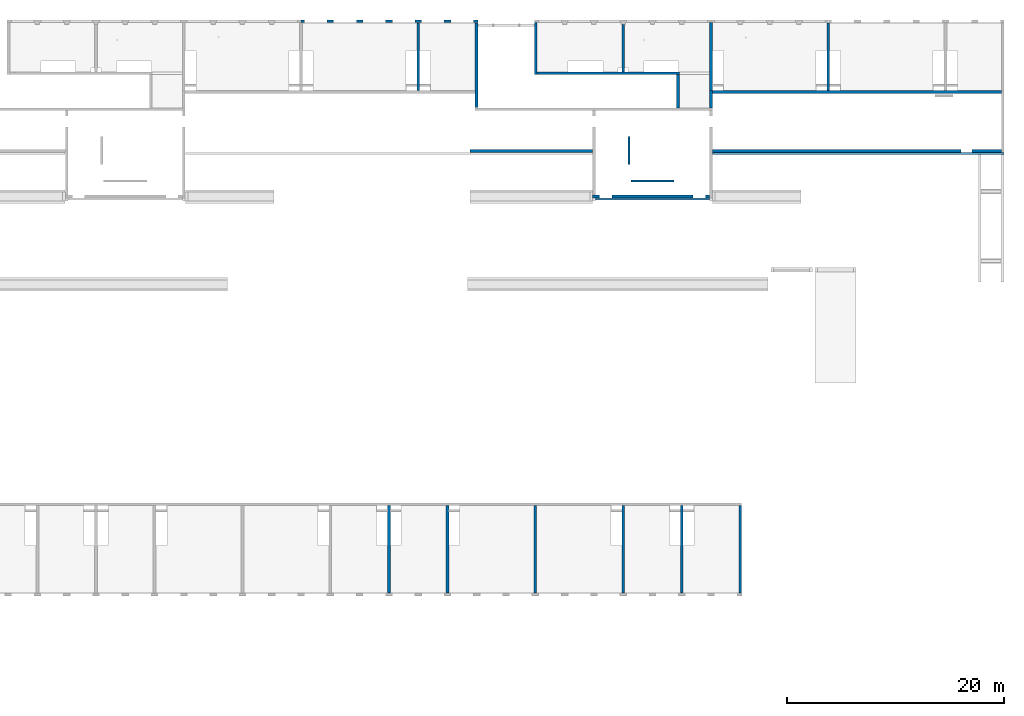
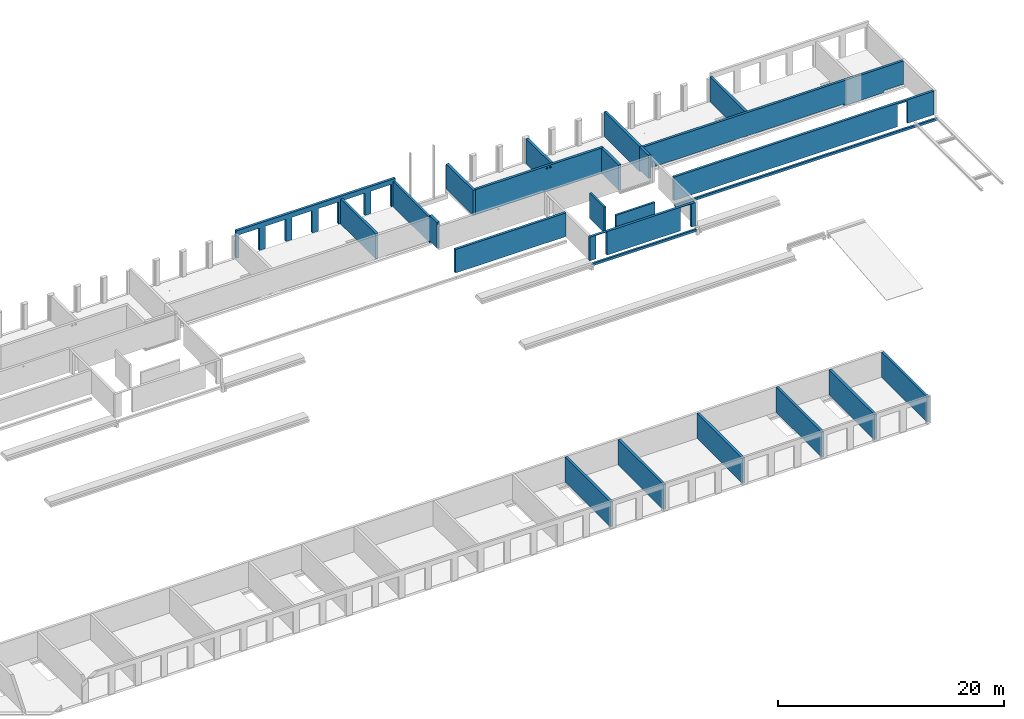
# One storey, part 13 of 18: 24 walls, 16 openings.
"""IFC2X3 building model written with IfcOpenShell, lengths in millimetres."""

from ifc_helpers import new_model, entity, si_unit, converted_unit, derived_unit, direction, frame, frame_2d, origin, origin_2d_with_axis, place, context, subcontext, project, spatial, polyline, rectangle, circle, extrude, clip, bounded_halfspace, material, layer, layer_set, layer_usage, type_object, element, save


model = new_model("IFC2X3")

# Units and contexts
model_context = context("Model", 3, precision=0.01, world=origin(), true_north=direction((6.12303176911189e-17, 1.0)))
body_context = subcontext(model_context, "Body", "Model", "MODEL_VIEW")
ifc_project = project(units=[si_unit("LENGTHUNIT", "METRE", prefix="MILLI"), si_unit("AREAUNIT", "SQUARE_METRE"), si_unit("VOLUMEUNIT", "CUBIC_METRE"), converted_unit("PLANEANGLEUNIT", "DEGREE", entity("IfcRatioMeasure", 0.0174532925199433), si_unit("PLANEANGLEUNIT", "RADIAN"), dimensions=[0, 0, 0, 0, 0, 0, 0]), si_unit("MASSUNIT", "GRAM", prefix="KILO"), derived_unit("MASSDENSITYUNIT", [(si_unit("MASSUNIT", "GRAM", prefix="KILO"), 1), (si_unit("LENGTHUNIT", "METRE"), -3)]), si_unit("TIMEUNIT", "SECOND"), si_unit("FREQUENCYUNIT", "HERTZ"), si_unit("THERMODYNAMICTEMPERATUREUNIT", "DEGREE_CELSIUS"), derived_unit("THERMALTRANSMITTANCEUNIT", [(si_unit("MASSUNIT", "GRAM", prefix="KILO"), 1), (si_unit("THERMODYNAMICTEMPERATUREUNIT", "KELVIN"), -1), (si_unit("TIMEUNIT", "SECOND"), -3)]), derived_unit("VOLUMETRICFLOWRATEUNIT", [(si_unit("LENGTHUNIT", "METRE"), 3), (si_unit("TIMEUNIT", "SECOND"), -1)]), si_unit("ELECTRICCURRENTUNIT", "AMPERE"), si_unit("ELECTRICVOLTAGEUNIT", "VOLT"), si_unit("POWERUNIT", "WATT"), si_unit("FORCEUNIT", "NEWTON", prefix="KILO"), si_unit("ILLUMINANCEUNIT", "LUX"), si_unit("LUMINOUSFLUXUNIT", "LUMEN"), si_unit("LUMINOUSINTENSITYUNIT", "CANDELA"), derived_unit("USERDEFINED", [(si_unit("MASSUNIT", "GRAM", prefix="KILO"), -1), (si_unit("LENGTHUNIT", "METRE"), -2), (si_unit("TIMEUNIT", "SECOND"), 3), (si_unit("LUMINOUSFLUXUNIT", "LUMEN"), 1)]), derived_unit("LINEARVELOCITYUNIT", [(si_unit("LENGTHUNIT", "METRE"), 1), (si_unit("TIMEUNIT", "SECOND"), -1)]), si_unit("PRESSUREUNIT", "PASCAL"), derived_unit("USERDEFINED", [(si_unit("LENGTHUNIT", "METRE"), -2), (si_unit("MASSUNIT", "GRAM", prefix="KILO"), 1), (si_unit("TIMEUNIT", "SECOND"), -2)])], contexts=[model_context])

# Site, building, storey
site_placement = place(None, origin())
site = spatial("IfcSite", under=ifc_project, at=site_placement, Name="Default", CompositionType="ELEMENT")
building_placement = place(site_placement, origin())
building = spatial("IfcBuilding", under=site, at=building_placement, Name="niet gebruiken", CompositionType="ELEMENT")
storey_placement = place(building_placement, frame((0.0, 0.0, 3690.0)))
storey = spatial("IfcBuildingStorey", under=building, at=storey_placement, Name="01 eerste verdieping", CompositionType="ELEMENT", Elevation=3690.00000000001)

# Walls
ifc_material_1 = material(Name="NLRS_f2_beton ihwg")
ifc_layer_1 = layer(ifc_material_1, 250.0)
ifc_layer_set_1 = layer_set([ifc_layer_1], Name="Basic Wall:NLRS_22.21_WA_beton ihwg d=250_gen")
ifc_layer_usage_1 = layer_usage(ifc_layer_set_1, "AXIS2", "NEGATIVE", 125.0)
wall_type_1 = type_object("IfcWallType", Name="Basic Wall:NLRS_22.21_WA_beton ihwg d=250_gen", PredefinedType="STANDARD", material=ifc_layer_set_1)
wall_1_placement = place(storey_placement, frame((70200.0, 46746.0, -90.0), z_axis=(0.0, 0.0, 1.0), x_axis=(0.0, 1.0, 0.0)))
element("IfcWallStandardCase", 1, at=wall_1_placement, inside=storey, type_object=wall_type_1, material=ifc_layer_usage_1, Name="Basic Wall:NLRS_22.21_WA_beton ihwg d=250_gen", ObjectType="Basic Wall:NLRS_22.21_WA_beton ihwg d=250_gen", context=body_context, shape_type="SweptSolid", body=[
    extrude(rectangle(XDim=6239.99999999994, YDim=249.999999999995, at=frame_2d((3119.99999999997, 1.06581410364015e-12), x_axis=(-1.0, 0.0))), origin(), (0.0, 0.0, 1.0), 2720.00000000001),
])
ifc_layer_usage_2 = layer_usage(ifc_layer_set_1, "AXIS2", "NEGATIVE", 125.0)
wall_2_placement = place(storey_placement, frame((86275.0, 41186.0, 120.0), z_axis=(0.0, 0.0, 1.0), x_axis=(-1.0, 0.0, 0.0)))
element("IfcWallStandardCase", 2, at=wall_2_placement, inside=storey, type_object=wall_type_1, material=ifc_layer_usage_2, Name="Basic Wall:NLRS_22.21_WA_beton ihwg d=250_gen", ObjectType="Basic Wall:NLRS_22.21_WA_beton ihwg d=250_gen", context=body_context, shape_type="SweptSolid", body=[
    extrude(rectangle(XDim=11305.0000000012, YDim=249.999999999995, at=frame_2d((5652.5000000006, 2.91322521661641e-12), x_axis=(-1.0, 0.0))), origin(), (0.0, 0.0, 1.0), 2550.0),
])
ifc_layer_usage_3 = layer_usage(ifc_layer_set_1, "AXIS2", "NEGATIVE", 125.0)
wall_3_placement = place(storey_placement, frame((67500.0, 8496.0, -90.0), z_axis=(0.0, 0.0, 1.0), x_axis=(0.0, -1.0, 0.0)))
element("IfcWallStandardCase", 3, at=wall_3_placement, inside=storey, type_object=wall_type_1, material=ifc_layer_usage_3, Name="Basic Wall:NLRS_22.21_WA_beton ihwg d=250_gen", ObjectType="Basic Wall:NLRS_22.21_WA_beton ihwg d=250_gen", context=body_context, shape_type="SweptSolid", body=[
    extrude(rectangle(XDim=8075.99999999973, YDim=249.999999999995, at=frame_2d((4037.99999999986, 0.0), x_axis=(-1.0, 0.0))), origin(), (0.0, 0.0, 1.0), 2720.00000000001),
])
ifc_layer_usage_4 = layer_usage(ifc_layer_set_1, "AXIS2", "NEGATIVE", 125.0)
wall_4_placement = place(storey_placement, frame((72900.0, 8496.0, -90.0), z_axis=(0.0, 0.0, 1.0), x_axis=(0.0, -1.0, 0.0)))
element("IfcWallStandardCase", 4, at=wall_4_placement, inside=storey, type_object=wall_type_1, material=ifc_layer_usage_4, Name="Basic Wall:NLRS_22.21_WA_beton ihwg d=250_gen", ObjectType="Basic Wall:NLRS_22.21_WA_beton ihwg d=250_gen", context=body_context, shape_type="SweptSolid", body=[
    extrude(rectangle(XDim=8075.99999999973, YDim=249.999999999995, at=frame_2d((4037.99999999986, 0.0), x_axis=(-1.0, 0.0))), origin(), (0.0, 0.0, 1.0), 2720.00000000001),
])
ifc_layer_usage_5 = layer_usage(ifc_layer_set_1, "AXIS2", "NEGATIVE", 125.0)
wall_5_placement = place(storey_placement, frame((81000.0, 8496.0, -90.0), z_axis=(0.0, 0.0, 1.0), x_axis=(0.0, -1.0, 0.0)))
element("IfcWallStandardCase", 5, at=wall_5_placement, inside=storey, type_object=wall_type_1, material=ifc_layer_usage_5, Name="Basic Wall:NLRS_22.21_WA_beton ihwg d=250_gen", ObjectType="Basic Wall:NLRS_22.21_WA_beton ihwg d=250_gen", context=body_context, shape_type="SweptSolid", body=[
    extrude(rectangle(XDim=8075.99999999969, YDim=250.000000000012, at=frame_2d((4037.99999999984, 0.0), x_axis=(-1.0, 0.0))), origin(), (0.0, 0.0, 1.0), 2720.00000000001),
])
ifc_layer_usage_6 = layer_usage(ifc_layer_set_1, "AXIS2", "NEGATIVE", 125.0)
wall_6_placement = place(storey_placement, frame((89100.0, 8496.0, -90.0), z_axis=(0.0, 0.0, 1.0), x_axis=(0.0, -1.0, 0.0)))
element("IfcWallStandardCase", 6, at=wall_6_placement, inside=storey, type_object=wall_type_1, material=ifc_layer_usage_6, Name="Basic Wall:NLRS_22.21_WA_beton ihwg d=250_gen", ObjectType="Basic Wall:NLRS_22.21_WA_beton ihwg d=250_gen", context=body_context, shape_type="SweptSolid", body=[
    extrude(rectangle(XDim=8075.99999999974, YDim=250.000000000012, at=frame_2d((4037.99999999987, 0.0), x_axis=(-1.0, 0.0))), origin(), (0.0, 0.0, 1.0), 2720.00000000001),
])
ifc_layer_usage_7 = layer_usage(ifc_layer_set_1, "AXIS2", "NEGATIVE", 125.0)
wall_7_placement = place(storey_placement, frame((94500.0, 8496.0, -90.0), z_axis=(0.0, 0.0, 1.0), x_axis=(0.0, -1.0, 0.0)))
element("IfcWallStandardCase", 7, at=wall_7_placement, inside=storey, type_object=wall_type_1, material=ifc_layer_usage_7, Name="Basic Wall:NLRS_22.21_WA_beton ihwg d=250_gen", ObjectType="Basic Wall:NLRS_22.21_WA_beton ihwg d=250_gen", context=body_context, shape_type="SweptSolid", body=[
    extrude(rectangle(XDim=8075.99999999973, YDim=250.000000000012, at=frame_2d((4037.99999999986, 0.0), x_axis=(-1.0, 0.0))), origin(), (0.0, 0.0, 1.0), 2720.00000000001),
])
ifc_layer_usage_8 = layer_usage(ifc_layer_set_1, "AXIS2", "NEGATIVE", 125.0)
wall_8_placement = place(storey_placement, frame((99900.0, 8496.0, -90.0), z_axis=(0.0, 0.0, 1.0), x_axis=(0.0, -1.0, 0.0)))
element("IfcWallStandardCase", 8, at=wall_8_placement, inside=storey, type_object=wall_type_1, material=ifc_layer_usage_8, Name="Basic Wall:NLRS_22.21_WA_beton ihwg d=250_gen", ObjectType="Basic Wall:NLRS_22.21_WA_beton ihwg d=250_gen", context=body_context, shape_type="SweptSolid", body=[
    extrude(rectangle(XDim=8075.9999999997, YDim=250.000000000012, at=frame_2d((4037.99999999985, 0.0), x_axis=(-1.0, 0.0))), origin(), (0.0, 0.0, 1.0), 2720.00000000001),
])

# Wall, openings
ifc_layer_usage_9 = layer_usage(ifc_layer_set_1, "AXIS2", "NEGATIVE", 125.0)
wall_9_placement = place(storey_placement, frame((123950.0, 46621.0, -90.0), z_axis=(0.0, 0.0, 1.0), x_axis=(-1.0, 0.0, 0.0)))
wall_9 = element("IfcWallStandardCase", 9, at=wall_9_placement, inside=storey, type_object=wall_type_1, material=ifc_layer_usage_9, Name="Basic Wall:NLRS_22.21_WA_beton ihwg d=250_gen", ObjectType="Basic Wall:NLRS_22.21_WA_beton ihwg d=250_gen", context=body_context, shape_type="SweptSolid", body=[
    extrude(rectangle(XDim=26625.0000000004, YDim=249.999999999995, at=frame_2d((13312.5000000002, -1.24344978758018e-12), x_axis=(-1.0, 0.0))), origin(), (0.0, 0.0, 1.0), 2720.0),
])
opening_1_placement = place(wall_9_placement, origin())
element("IfcOpeningElement", 10, at=opening_1_placement, cuts=wall_9, Name="Basic Wall:NLRS_22.21_WA_beton ihwg d=250_gen", ObjectType="Opening", context=body_context, shape_type="SweptSolid", body=[
    extrude(rectangle(XDim=209.99999999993, YDim=20555.0, at=frame_2d((0.0, 1.65130131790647e-11), x_axis=(0.0, 1.0))), frame((16347.5000000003, 125.0, 105.0), z_axis=(0.0, -1.0, 0.0), x_axis=(-1.0, 0.0, 0.0)), (0.0, 0.0, 1.0), 250.0),
])
opening_2_placement = place(wall_9_placement, origin())
element("IfcOpeningElement", 11, at=opening_2_placement, cuts=wall_9, Name="Basic Wall:NLRS_22.21_WA_beton ihwg d=250_gen", ObjectType="Opening", context=body_context, shape_type="SweptSolid", body=[
    extrude(rectangle(XDim=210.000000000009, YDim=2020.00000000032, at=frame_2d((-2.77111666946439e-13, 8.69704308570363e-12), x_axis=(1.0, 0.0))), frame((1010.0, 125.0, 105.0), z_axis=(0.0, -1.0, 0.0), x_axis=(0.0, 0.0, 1.0)), (0.0, 0.0, 1.0), 250.0),
])

# Wall, opening
ifc_layer_usage_10 = layer_usage(ifc_layer_set_1, "AXIS2", "NEGATIVE", 125.0)
wall_10_placement = place(storey_placement, frame((123950.0, 41186.0, 120.0), z_axis=(0.0, 0.0, 1.0), x_axis=(-1.0, 0.0, 0.0)))
wall_10 = element("IfcWallStandardCase", 12, at=wall_10_placement, inside=storey, type_object=wall_type_1, material=ifc_layer_usage_10, Name="Basic Wall:NLRS_22.21_WA_beton ihwg d=250_gen", ObjectType="Basic Wall:NLRS_22.21_WA_beton ihwg d=250_gen", context=body_context, shape_type="SweptSolid", body=[
    extrude(rectangle(XDim=26625.0000000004, YDim=249.999999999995, at=frame_2d((13312.5000000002, -1.24344978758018e-12), x_axis=(-1.0, 0.0))), origin(), (0.0, 0.0, 1.0), 2550.0),
])
opening_3_placement = place(wall_10_placement, origin())
element("IfcOpeningElement", 13, at=opening_3_placement, cuts=wall_10, Name="Basic Wall:NLRS_22.21_WA_beton ihwg d=250_gen", ObjectType="Opening", context=body_context, shape_type="SweptSolid", body=[
    extrude(rectangle(XDim=2380.0, YDim=1024.99999999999, at=frame_2d((5.6843418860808e-13, 0.0), x_axis=(1.0, 0.0))), frame((3212.5000000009, -1649.0, 1190.0), z_axis=(0.0, 1.0, 0.0), x_axis=(0.0, 0.0, 1.0)), (0.0, 0.0, 1.0), 3048.0),
])

# Walls
ifc_layer_usage_11 = layer_usage(ifc_layer_set_1, "AXIS2", "NEGATIVE", 125.0)
wall_11_placement = place(storey_placement, frame((89100.0, 48476.0, -90.0), z_axis=(0.0, 0.0, 1.0), x_axis=(0.0, 1.0, 0.0)))
element("IfcWallStandardCase", 14, at=wall_11_placement, inside=storey, type_object=wall_type_1, material=ifc_layer_usage_11, Name="Basic Wall:NLRS_22.21_WA_beton ihwg d=250_gen", ObjectType="Basic Wall:NLRS_22.21_WA_beton ihwg d=250_gen", context=body_context, shape_type="SweptSolid", body=[
    extrude(rectangle(XDim=4370.00000000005, YDim=250.000000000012, at=frame_2d((2185.00000000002, -4.88142859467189e-12), x_axis=(-1.0, 0.0))), origin(), (0.0, 0.0, 1.0), 2720.00000000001),
])
ifc_layer_usage_12 = layer_usage(ifc_layer_set_1, "AXIS2", "NEGATIVE", 125.0)
wall_12_placement = place(storey_placement, frame((108000.0, 46746.0, -90.0), z_axis=(0.0, 0.0, 1.0), x_axis=(0.0, 1.0, 0.0)))
element("IfcWallStandardCase", 15, at=wall_12_placement, inside=storey, type_object=wall_type_1, material=ifc_layer_usage_12, Name="Basic Wall:NLRS_22.21_WA_beton ihwg d=250_gen", ObjectType="Basic Wall:NLRS_22.21_WA_beton ihwg d=250_gen", context=body_context, shape_type="SweptSolid", body=[
    extrude(rectangle(XDim=6239.99999999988, YDim=250.000000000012, at=frame_2d((3119.99999999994, -3.26849658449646e-12), x_axis=(-1.0, 0.0))), origin(), (0.0, 0.0, 1.0), 2720.00000000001),
])

# Wall, openings
ifc_layer_usage_13 = layer_usage(ifc_layer_set_1, "AXIS2", "NEGATIVE", 125.0)
wall_13_placement = place(storey_placement, frame((75575.0, 45176.0, -90.0), z_axis=(0.0, 0.0, 1.0), x_axis=(0.0, 1.0, 0.0)))
wall_13 = element("IfcWallStandardCase", 16, at=wall_13_placement, inside=storey, type_object=wall_type_1, material=ifc_layer_usage_13, Name="Basic Wall:NLRS_22.21_WA_beton ihwg d=250_gen", ObjectType="Basic Wall:NLRS_22.21_WA_beton ihwg d=250_gen", context=body_context, shape_type="Clipping", body=[
    clip(extrude(rectangle(XDim=7810.0, YDim=249.999999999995, at=frame_2d((3905.0, 2.42295072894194e-12), x_axis=(-1.0, 0.0))), origin(), (0.0, 0.0, 1.0), 3009.99999999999), bounded_halfspace(frame((1320.0, 125.0, 2720.0), z_axis=(0.0, 0.0, -1.0), x_axis=(-1.0, 0.0, 0.0)), True, frame((1320.0, 125.0, 2720.0), z_axis=(0.0, 0.0, -1.0), x_axis=(-1.0, 0.0, 0.0)), polyline([(0.0, 0.0), (-6490.0, 0.0), (-6490.0, -250.0), (0.0, -250.0), (0.0, 0.0)]))),
])
opening_4_placement = place(wall_13_placement, origin())
element("IfcOpeningElement", 17, at=opening_4_placement, cuts=wall_13, Name="Basic Wall:NLRS_22.21_WA_beton ihwg d=250_gen", ObjectType="Opening", context=body_context, shape_type="SweptSolid", body=[
    extrude(rectangle(XDim=39.9999999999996, YDim=6489.99999999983, at=frame_2d((0.0, -4.32009983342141e-12), x_axis=(1.0, 0.0))), frame((4565.0, 125.0, 2990.0), z_axis=(0.0, -1.0, 0.0), x_axis=(0.0, 0.0, -1.0)), (0.0, 0.0, 1.0), 250.0),
])
opening_5_placement = place(wall_13_placement, origin())
element("IfcOpeningElement", 18, at=opening_5_placement, cuts=wall_13, Name="Basic Wall:NLRS_22.21_WA_beton ihwg d=250_gen", ObjectType="Opening", context=body_context, shape_type="SweptSolid", body=[
    extrude(rectangle(XDim=209.999999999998, YDim=1320.00000000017, at=frame_2d((-2.77111666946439e-13, 0.0), x_axis=(1.0, 0.0))), frame((660.0, 125.0, 105.0), z_axis=(0.0, -1.0, 0.0), x_axis=(0.0, 0.0, 1.0)), (0.0, 0.0, 1.0), 250.0),
])

# Wall
ifc_layer_usage_14 = layer_usage(ifc_layer_set_1, "AXIS2", "NEGATIVE", 125.0)
wall_14_placement = place(storey_placement, frame((81025.0, 48226.0, -90.0), z_axis=(0.0, 0.0, 1.0), x_axis=(0.0, 1.0, 0.0)))
element("IfcWallStandardCase", 19, at=wall_14_placement, inside=storey, type_object=wall_type_1, material=ifc_layer_usage_14, Name="Basic Wall:NLRS_22.21_WA_beton ihwg d=250_gen", ObjectType="Basic Wall:NLRS_22.21_WA_beton ihwg d=250_gen", context=body_context, shape_type="SweptSolid", body=[
    extrude(rectangle(XDim=4780.0, YDim=250.000000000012, at=frame_2d((2390.0, -4.52615722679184e-12), x_axis=(-1.0, 0.0))), origin(), (0.0, 0.0, 1.0), 2720.00000000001),
])

# Wall, openings
ifc_layer_usage_15 = layer_usage(ifc_layer_set_1, "AXIS2", "NEGATIVE", 125.0)
wall_15_placement = place(storey_placement, frame((94275.0, 48351.0, -90.0), z_axis=(0.0, 0.0, 1.0), x_axis=(-1.0, 0.0, 0.0)))
wall_15 = element("IfcWallStandardCase", 20, at=wall_15_placement, inside=storey, type_object=wall_type_1, material=ifc_layer_usage_15, Name="Basic Wall:NLRS_22.21_WA_beton ihwg d=250_gen", ObjectType="Basic Wall:NLRS_22.21_WA_beton ihwg d=250_gen", context=body_context, shape_type="SweptSolid", body=[
    extrude(rectangle(XDim=13125.0, YDim=249.999999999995, at=frame_2d((6562.5, -1.10134124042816e-12), x_axis=(-1.0, 0.0))), origin(), (0.0, 0.0, 1.0), 2720.00000000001),
])
opening_6_placement = place(wall_15_placement, origin())
element("IfcOpeningElement", 21, at=opening_6_placement, cuts=wall_15, Name="Basic Wall:NLRS_22.21_WA_beton ihwg d=250_gen", ObjectType="Opening", context=body_context, shape_type="SweptSolid", body=[
    extrude(circle(Radius=100.0, at=origin_2d_with_axis()), frame((5470.0, -125.0, 2480.0), z_axis=(0.0, 1.0, 0.0), x_axis=(-1.0, 0.0, 0.0)), (0.0, 0.0, 1.0), 250.000000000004),
])
opening_7_placement = place(wall_15_placement, origin())
element("IfcOpeningElement", 22, at=opening_7_placement, cuts=wall_15, Name="Basic Wall:NLRS_22.21_WA_beton ihwg d=250_gen", ObjectType="Opening", context=body_context, shape_type="SweptSolid", body=[
    extrude(circle(Radius=100.0, at=origin_2d_with_axis()), frame((5820.0, -125.0, 2480.0), z_axis=(0.0, 1.0, 0.0), x_axis=(-1.0, 0.0, 0.0)), (0.0, 0.0, 1.0), 250.000000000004),
])

# Wall
ifc_layer_usage_16 = layer_usage(ifc_layer_set_1, "AXIS2", "NEGATIVE", 125.0)
wall_16_placement = place(storey_placement, frame((94150.0, 45156.0, -90.0), z_axis=(0.0, 0.0, 1.0), x_axis=(0.0, 1.0, 0.0)))
element("IfcWallStandardCase", 23, at=wall_16_placement, inside=storey, type_object=wall_type_1, material=ifc_layer_usage_16, Name="Basic Wall:NLRS_22.21_WA_beton ihwg d=250_gen", ObjectType="Basic Wall:NLRS_22.21_WA_beton ihwg d=250_gen", context=body_context, shape_type="SweptSolid", body=[
    extrude(rectangle(XDim=3069.99999999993, YDim=250.000000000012, at=frame_2d((1534.99999999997, -6.01119154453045e-12), x_axis=(-1.0, 0.0))), origin(), (0.0, 0.0, 1.0), 2720.0),
])

# Wall, openings
ifc_layer_usage_17 = layer_usage(ifc_layer_set_1, "AXIS2", "NEGATIVE", 125.0)
wall_17_placement = place(storey_placement, frame((97075.0, 36981.0, 30.0), z_axis=(0.0, 0.0, 1.0), x_axis=(-1.0, 0.0, 0.0)))
wall_17 = element("IfcWallStandardCase", 24, at=wall_17_placement, inside=storey, type_object=wall_type_1, material=ifc_layer_usage_17, Name="Basic Wall:NLRS_22.21_WA_beton ihwg d=250_gen", ObjectType="Basic Wall:NLRS_22.21_WA_beton ihwg d=250_gen", context=body_context, shape_type="Clipping", body=[
    clip(extrude(rectangle(XDim=10800.0, YDim=250.000000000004, at=frame_2d((5399.99999999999, -5.47117906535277e-13), x_axis=(-1.0, 0.0))), origin(), (0.0, 0.0, 1.0), 2550.0), bounded_halfspace(frame((0.0, -125.0, 2550.0), z_axis=(0.0, 0.0, -1.0), x_axis=(0.0, -1.0, 0.0)), True, frame((0.0, -125.0, 2550.0), z_axis=(0.0, 0.0, -1.0), x_axis=(0.0, -1.0, 0.0)), polyline([(0.0, 0.0), (-250.0, 0.0), (-250.0, -10800.0), (0.0, -10800.0), (0.0, -10550.0), (0.0, -10250.0), (0.0, -7175.00021676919), (0.0, -3375.00021676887), (0.0, 0.0)]))),
])
opening_8_placement = place(wall_17_placement, origin())
element("IfcOpeningElement", 25, at=opening_8_placement, cuts=wall_17, Name="Basic Wall:NLRS_22.21_WA_beton ihwg d=250_gen", ObjectType="Opening", context=body_context, shape_type="SweptSolid", body=[
    extrude(rectangle(XDim=2495.0, YDim=1130.0, at=frame_2d((-5.6843418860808e-13, -8.64019966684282e-12), x_axis=(1.0, 0.0))), frame((965.0, -1649.0, 1247.5), z_axis=(0.0, 1.0, 0.0), x_axis=(0.0, 0.0, 1.0)), (0.0, 0.0, 1.0), 3048.0),
])
opening_9_placement = place(wall_17_placement, origin())
element("IfcOpeningElement", 26, at=opening_9_placement, cuts=wall_17, Name="Basic Wall:NLRS_22.21_WA_beton ihwg d=250_gen", ObjectType="Opening", context=body_context, shape_type="SweptSolid", body=[
    extrude(rectangle(XDim=2495.0, YDim=1130.0, at=frame_2d((-5.6843418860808e-13, -8.64019966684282e-12), x_axis=(1.0, 0.0))), frame((9584.98186661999, -1649.0, 1247.5), z_axis=(0.0, 1.0, 0.0), x_axis=(0.0, 0.0, 1.0)), (0.0, 0.0, 1.0), 3048.0),
])

# Walls
ifc_layer_usage_18 = layer_usage(ifc_layer_set_1, "AXIS2", "NEGATIVE", 125.0)
wall_18_placement = place(storey_placement, frame((97200.0, 46746.0, -90.0), z_axis=(0.0, 0.0, 1.0), x_axis=(0.0, 1.0, 0.0)))
element("IfcWallStandardCase", 27, at=wall_18_placement, inside=storey, type_object=wall_type_1, material=ifc_layer_usage_18, Name="Basic Wall:NLRS_22.21_WA_beton ihwg d=250_gen", ObjectType="Basic Wall:NLRS_22.21_WA_beton ihwg d=250_gen", context=body_context, shape_type="Clipping", body=[
    clip(extrude(rectangle(XDim=6259.99999999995, YDim=250.000000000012, at=frame_2d((3129.99999999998, -3.24718030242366e-12), x_axis=(-1.0, 0.0))), origin(), (0.0, 0.0, 1.0), 2719.99999999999), bounded_halfspace(frame((3680.0, -125.0, 2720.0), z_axis=(0.0, 0.0, -1.0), x_axis=(-1.0, 0.0, 0.0)), True, frame((3680.0, -125.0, 2720.0), z_axis=(0.0, 0.0, -1.0), x_axis=(-1.0, 0.0, 0.0)), polyline([(0.0, 0.0), (3680.0, 0.0), (3680.0, 250.0), (-2580.0, 250.0), (-2580.0, 230.0), (-2580.0, 125.0), (-2580.0, 20.0), (-2580.0, 0.0), (0.0, 0.0)]))),
])
ifc_layer_usage_19 = layer_usage(ifc_layer_set_1, "AXIS2", "NEGATIVE", 125.0)
wall_19_placement = place(storey_placement, frame((97200.0, 45156.0, 120.0), z_axis=(0.0, 0.0, 1.0), x_axis=(0.0, 1.0, 0.0)))
element("IfcWallStandardCase", 28, at=wall_19_placement, inside=storey, type_object=wall_type_1, material=ifc_layer_usage_19, Name="Basic Wall:NLRS_22.21_WA_beton ihwg d=250_gen", ObjectType="Basic Wall:NLRS_22.21_WA_beton ihwg d=250_gen", context=body_context, shape_type="Clipping", body=[
    clip(clip(extrude(rectangle(XDim=1590.00000000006, YDim=250.000000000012, at=frame_2d((795.000000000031, 1.37845290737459e-12), x_axis=(-1.0, 0.0))), origin(), (0.0, 0.0, 1.0), 2509.99999999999), bounded_halfspace(frame((1590.0, -125.0, 0.0), z_axis=(0.0, 0.0, 1.0), x_axis=(0.0, -1.0, 0.0)), True, frame((1590.0, -125.0, 0.0), z_axis=(0.0, 0.0, 1.0), x_axis=(0.0, -1.0, 0.0)), polyline([(0.0, 0.0), (-250.0, 0.0), (-250.0, -1590.0), (0.0, -1590.0), (0.0, -690.0), (0.0, 0.0)]))), bounded_halfspace(frame((0.0, -125.0, 2510.0), z_axis=(0.0, 0.0, -1.0), x_axis=(-1.0, 0.0, 0.0)), True, frame((0.0, -125.0, 2510.0), z_axis=(0.0, 0.0, -1.0), x_axis=(-1.0, 0.0, 0.0)), polyline([(0.0, 0.0), (0.0, 230.0), (0.0, 250.0), (-1590.0, 250.0), (-1590.0, 0.0), (-1340.0, 0.0), (0.0, 0.0)]))),
])

# Wall, openings
ifc_material_2 = material(Name="NLRS_f2_beton prefab")
ifc_layer_2 = layer(ifc_material_2, 250.0)
ifc_layer_set_2 = layer_set([ifc_layer_2], Name="Basic Wall:NLRS_21.21_WA_beton prefab d=250_gen")
ifc_layer_usage_20 = layer_usage(ifc_layer_set_2, "AXIS2", "NEGATIVE", 125.0)
wall_type_2 = type_object("IfcWallType", Name="Basic Wall:NLRS_21.21_WA_beton prefab d=250_gen", PredefinedType="STANDARD", material=ifc_layer_set_2)
wall_20_placement = place(storey_placement, frame((59410.0, 53131.0, -70.0)))
wall_20 = element("IfcWallStandardCase", 29, at=wall_20_placement, inside=storey, type_object=wall_type_2, material=ifc_layer_usage_20, Name="Basic Wall:NLRS_21.21_WA_beton prefab d=250_gen", ObjectType="Basic Wall:NLRS_21.21_WA_beton prefab d=250_gen", context=body_context, shape_type="SweptSolid", body=[
    extrude(rectangle(XDim=16290.0000000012, YDim=249.999999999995, at=frame_2d((8145.00000000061, 6.89226453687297e-13), x_axis=(-1.0, 0.0))), origin(), (0.0, 0.0, 1.0), 2950.00000000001),
])
opening_10_placement = place(wall_20_placement, origin())
element("IfcOpeningElement", 30, at=opening_10_placement, cuts=wall_20, Name="Basic Wall:NLRS_21.21_WA_beton prefab d=250_gen", ObjectType="Opening", context=body_context, shape_type="SweptSolid", body=[
    extrude(rectangle(XDim=2440.0, YDim=2080.0, at=frame_2d((0.0, 4.32009983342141e-12), x_axis=(1.0, 0.0))), frame((1340.00096011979, -1649.0, 1200.0), z_axis=(0.0, 1.0, 0.0), x_axis=(0.0, 0.0, 1.0)), (0.0, 0.0, 1.0), 3048.0),
])
opening_11_placement = place(wall_20_placement, origin())
element("IfcOpeningElement", 31, at=opening_11_placement, cuts=wall_20, Name="Basic Wall:NLRS_21.21_WA_beton prefab d=250_gen", ObjectType="Opening", context=body_context, shape_type="SweptSolid", body=[
    extrude(rectangle(XDim=2440.0, YDim=2080.0, at=frame_2d((0.0, -4.32009983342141e-12), x_axis=(1.0, 0.0))), frame((4040.00096011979, -1649.0, 1200.0), z_axis=(0.0, 1.0, 0.0), x_axis=(0.0, 0.0, 1.0)), (0.0, 0.0, 1.0), 3048.0),
])
opening_12_placement = place(wall_20_placement, origin())
element("IfcOpeningElement", 32, at=opening_12_placement, cuts=wall_20, Name="Basic Wall:NLRS_21.21_WA_beton prefab d=250_gen", ObjectType="Opening", context=body_context, shape_type="SweptSolid", body=[
    extrude(rectangle(XDim=2440.0, YDim=2080.0, at=frame_2d((0.0, -4.32009983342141e-12), x_axis=(1.0, 0.0))), frame((6740.0009601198, -1649.0, 1200.0), z_axis=(0.0, 1.0, 0.0), x_axis=(0.0, 0.0, 1.0)), (0.0, 0.0, 1.0), 3048.0),
])
opening_13_placement = place(wall_20_placement, origin())
element("IfcOpeningElement", 33, at=opening_13_placement, cuts=wall_20, Name="Basic Wall:NLRS_21.21_WA_beton prefab d=250_gen", ObjectType="Opening", context=body_context, shape_type="SweptSolid", body=[
    extrude(rectangle(XDim=2440.0, YDim=2080.0, at=frame_2d((0.0, 4.32009983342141e-12), x_axis=(1.0, 0.0))), frame((9440.00096011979, -1649.0, 1200.0), z_axis=(0.0, 1.0, 0.0), x_axis=(0.0, 0.0, 1.0)), (0.0, 0.0, 1.0), 3048.0),
])
opening_14_placement = place(wall_20_placement, origin())
element("IfcOpeningElement", 34, at=opening_14_placement, cuts=wall_20, Name="Basic Wall:NLRS_21.21_WA_beton prefab d=250_gen", ObjectType="Opening", context=body_context, shape_type="SweptSolid", body=[
    extrude(rectangle(XDim=2440.0, YDim=2080.0, at=frame_2d((0.0, -4.32009983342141e-12), x_axis=(1.0, 0.0))), frame((12140.0009601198, -1649.0, 1200.0), z_axis=(0.0, 1.0, 0.0), x_axis=(0.0, 0.0, 1.0)), (0.0, 0.0, 1.0), 3048.0),
])
opening_15_placement = place(wall_20_placement, origin())
element("IfcOpeningElement", 35, at=opening_15_placement, cuts=wall_20, Name="Basic Wall:NLRS_21.21_WA_beton prefab d=250_gen", ObjectType="Opening", context=body_context, shape_type="SweptSolid", body=[
    extrude(rectangle(XDim=2440.0, YDim=2080.0, at=frame_2d((0.0, 4.32009983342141e-12), x_axis=(1.0, 0.0))), frame((14840.0009601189, -1649.0, 1200.0), z_axis=(0.0, 1.0, 0.0), x_axis=(0.0, 0.0, 1.0)), (0.0, 0.0, 1.0), 3048.0),
])
opening_16_placement = place(wall_20_placement, origin())
element("IfcOpeningElement", 36, at=opening_16_placement, cuts=wall_20, Name="Basic Wall:NLRS_21.21_WA_beton prefab d=250_gen", ObjectType="Opening", context=body_context, shape_type="SweptSolid", body=[
    extrude(rectangle(XDim=2440.0, YDim=2080.0, at=frame_2d((0.0, 4.32009983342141e-12), x_axis=(1.0, 0.0))), frame((14840.0009601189, -1649.0, 4170.0), z_axis=(0.0, 1.0, 0.0), x_axis=(0.0, 0.0, 1.0)), (0.0, 0.0, 1.0), 3048.0),
])

# Walls
ifc_layer_3 = layer(ifc_material_2, 200.0)
ifc_layer_set_3 = layer_set([ifc_layer_3], Name="Basic Wall:NLRS_22.21_WA_beton prefab d=200_gen")
ifc_layer_usage_21 = layer_usage(ifc_layer_set_3, "AXIS2", "NEGATIVE", 100.0)
wall_type_3 = type_object("IfcWallType", Name="Basic Wall:NLRS_22.21_WA_beton prefab d=200_gen", PredefinedType="STANDARD", material=ifc_layer_set_3)
wall_21_placement = place(storey_placement, frame((93800.0, 38426.0, 50.0), z_axis=(0.0, 0.0, 1.0), x_axis=(-1.0, 0.0, 0.0)))
element("IfcWallStandardCase", 37, at=wall_21_placement, inside=storey, type_object=wall_type_3, material=ifc_layer_usage_21, Name="Basic Wall:NLRS_22.21_WA_beton prefab d=200_gen", ObjectType="Basic Wall:NLRS_22.21_WA_beton prefab d=200_gen", context=body_context, shape_type="SweptSolid", body=[
    extrude(rectangle(XDim=3999.99999999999, YDim=199.999999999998, at=frame_2d((2000.0, 0.0), x_axis=(-1.0, 0.0))), origin(), (0.0, 0.0, 1.0), 2780.0),
])
ifc_layer_usage_22 = layer_usage(ifc_layer_set_3, "AXIS2", "NEGATIVE", 100.0)
wall_22_placement = place(storey_placement, frame((89625.0, 39946.0, 50.0), z_axis=(0.0, 0.0, 1.0), x_axis=(0.0, 1.0, 0.0)))
element("IfcWallStandardCase", 38, at=wall_22_placement, inside=storey, type_object=wall_type_3, material=ifc_layer_usage_22, Name="Basic Wall:NLRS_22.21_WA_beton prefab d=200_gen", ObjectType="Basic Wall:NLRS_22.21_WA_beton prefab d=200_gen", context=body_context, shape_type="SweptSolid", body=[
    extrude(rectangle(XDim=2549.99999999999, YDim=199.999999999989, at=frame_2d((1275.0, 0.0), x_axis=(-1.0, 0.0))), origin(), (0.0, 0.0, 1.0), 2780.00000000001),
])
wall_type_4 = type_object("IfcWallType", Name="NLRS_21.21_SF_WPB_oplegnok ihwg beton_gen:200x250", PredefinedType="NOTDEFINED", material=ifc_material_1)
wall_23_placement = place(storey_placement, frame((97345.0, 40861.0, -460.0)))
element("IfcWall", 39, at=wall_23_placement, inside=storey, type_object=wall_type_4, material=ifc_material_1, Name="NLRS_21.21_SF_WPB_oplegnok ihwg beton_gen:200x250", ObjectType="NLRS_21.21_SF_WPB_oplegnok ihwg beton_gen:200x250", context=body_context, shape_type="SweptSolid", body=[
    extrude(rectangle(XDim=26855.0, YDim=199.999999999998, at=frame_2d((0.0, 4.33431068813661e-12), x_axis=(1.0, 0.0))), frame((13427.5, 100.0, 0.0)), (0.0, 0.0, 1.0), 250.000000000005),
])
wall_24_placement = place(storey_placement, frame((86525.0, 36656.0, -460.0)))
element("IfcWall", 40, at=wall_24_placement, inside=storey, type_object=wall_type_4, material=ifc_material_1, Name="NLRS_21.21_SF_WPB_oplegnok ihwg beton_gen:200x250", ObjectType="NLRS_21.21_SF_WPB_oplegnok ihwg beton_gen:200x250", context=body_context, shape_type="SweptSolid", body=[
    extrude(rectangle(XDim=10550.0, YDim=200.000000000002, at=frame_2d((8.64019966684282e-12, 0.0), x_axis=(1.0, 0.0))), frame((5275.0, 100.0, 0.0)), (0.0, 0.0, 1.0), 250.000000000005),
])

save(model, "model.ifc")
